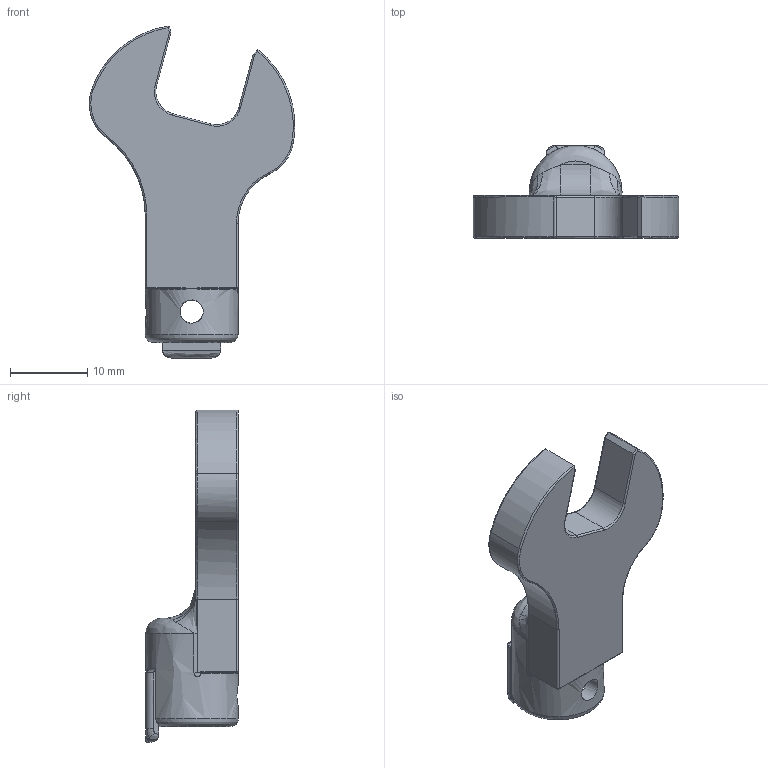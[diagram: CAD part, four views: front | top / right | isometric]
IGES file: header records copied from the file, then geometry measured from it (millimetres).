
Global section: file name: SH8DX11; native system: Autodesk Inventor 2016; preprocessor: unknown; author: Q600; date: 20151029.194034; units: millimetre
Bounding box: 26.56 x 12 x 42.92 mm (x, y, z)
Volume: 3326.3 mm3; surface area: 2295 mm2
Topology: 1 solids, 1 shells, 115 faces, 288 edges, 168 vertices
Faces by surface type: bspline 115
